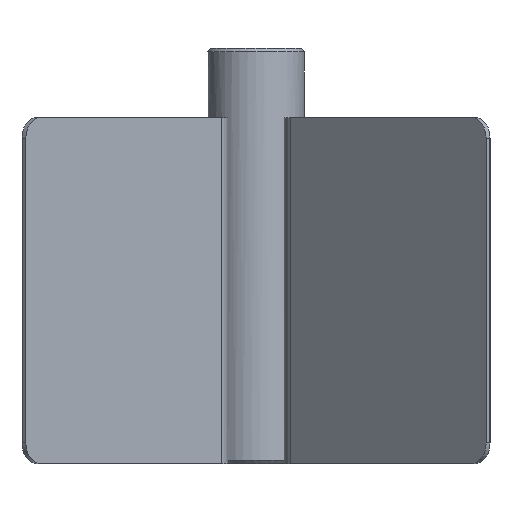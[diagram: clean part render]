
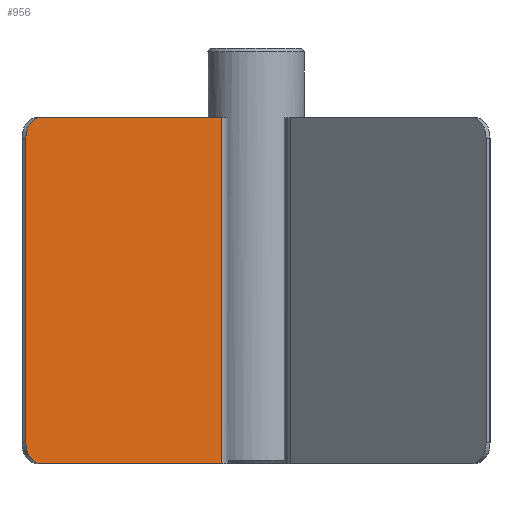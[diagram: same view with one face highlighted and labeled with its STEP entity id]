
A CAD part, left-side view. The second image highlights one B-rep face of the part: STEP entity #956.
In plain terms, the highlighted planar face has unit normal (-0.707, -0.707, 0).
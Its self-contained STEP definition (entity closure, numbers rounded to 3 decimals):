
#33=PLANE('',#1049);
#65=FACE_OUTER_BOUND('',#114,.T.);
#114=EDGE_LOOP('',(#670,#671,#672,#673,#674,#675));
#165=LINE('',#1466,#238);
#173=LINE('',#1490,#246);
#175=LINE('',#1503,#248);
#180=LINE('',#1520,#253);
#238=VECTOR('',#1166,10.);
#246=VECTOR('',#1190,10.);
#248=VECTOR('',#1206,10.);
#253=VECTOR('',#1229,10.);
#304=CIRCLE('',#1024,3.);
#312=CIRCLE('',#1038,3.);
#374=VERTEX_POINT('',#1456);
#375=VERTEX_POINT('',#1458);
#377=VERTEX_POINT('',#1464);
#384=VERTEX_POINT('',#1487);
#385=VERTEX_POINT('',#1489);
#389=VERTEX_POINT('',#1501);
#468=EDGE_CURVE('',#374,#375,#304,.T.);
#472=EDGE_CURVE('',#374,#377,#165,.T.);
#484=EDGE_CURVE('',#384,#385,#173,.T.);
#489=EDGE_CURVE('',#385,#377,#312,.T.);
#491=EDGE_CURVE('',#389,#384,#175,.T.);
#500=EDGE_CURVE('',#389,#375,#180,.T.);
#670=ORIENTED_EDGE('',*,*,#468,.F.);
#671=ORIENTED_EDGE('',*,*,#472,.T.);
#672=ORIENTED_EDGE('',*,*,#489,.F.);
#673=ORIENTED_EDGE('',*,*,#484,.F.);
#674=ORIENTED_EDGE('',*,*,#491,.F.);
#675=ORIENTED_EDGE('',*,*,#500,.T.);
#956=ADVANCED_FACE('',(#65),#33,.T.);
#1024=AXIS2_PLACEMENT_3D('',#1459,#1159,#1160);
#1038=AXIS2_PLACEMENT_3D('',#1498,#1200,#1201);
#1049=AXIS2_PLACEMENT_3D('',#1519,#1227,#1228);
#1159=DIRECTION('center_axis',(0.707,0.707,0.));
#1160=DIRECTION('ref_axis',(-0.5,0.5,0.707));
#1166=DIRECTION('',(0.,0.,-1.));
#1190=DIRECTION('',(-0.707,0.707,0.));
#1200=DIRECTION('center_axis',(0.707,0.707,0.));
#1201=DIRECTION('ref_axis',(-0.5,0.5,-0.707));
#1206=DIRECTION('',(0.,0.,-1.));
#1227=DIRECTION('center_axis',(-0.707,-0.707,0.));
#1228=DIRECTION('ref_axis',(-0.707,0.707,0.));
#1229=DIRECTION('',(-0.707,0.707,0.));
#1456=CARTESIAN_POINT('',(-37.477,33.234,2.));
#1458=CARTESIAN_POINT('',(-35.355,31.113,5.));
#1459=CARTESIAN_POINT('Origin',(-35.355,31.113,2.));
#1464=CARTESIAN_POINT('',(-37.477,33.234,-42.));
#1466=CARTESIAN_POINT('',(-37.477,33.234,5.));
#1487=CARTESIAN_POINT('',(-9.192,4.95,-45.));
#1489=CARTESIAN_POINT('',(-35.355,31.113,-45.));
#1490=CARTESIAN_POINT('',(-9.192,4.95,-45.));
#1498=CARTESIAN_POINT('Origin',(-35.355,31.113,-42.));
#1501=CARTESIAN_POINT('',(-9.192,4.95,5.));
#1503=CARTESIAN_POINT('',(-9.192,4.95,5.));
#1519=CARTESIAN_POINT('Origin',(-9.192,4.95,5.));
#1520=CARTESIAN_POINT('',(-9.192,4.95,5.));
